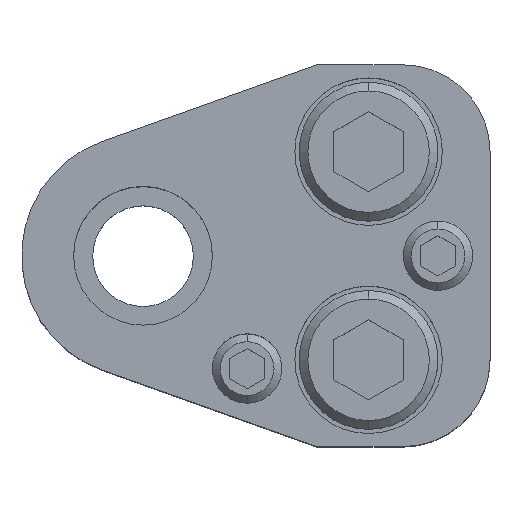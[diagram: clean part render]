
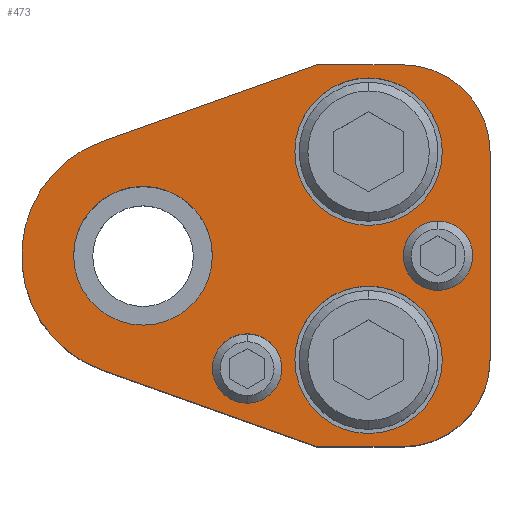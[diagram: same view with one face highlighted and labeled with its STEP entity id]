
A CAD part, top view. The second image highlights one B-rep face of the part: STEP entity #473.
In plain terms, the highlighted planar face has unit normal (0, 0, 1).
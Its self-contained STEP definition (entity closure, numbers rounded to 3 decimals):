
#223=FACE_BOUND('',#843,.T.);
#224=FACE_BOUND('',#844,.T.);
#225=FACE_BOUND('',#845,.T.);
#226=FACE_BOUND('',#846,.T.);
#227=FACE_BOUND('',#847,.T.);
#228=FACE_BOUND('',#848,.T.);
#273=CIRCLE('',#2646,14.);
#275=CIRCLE('',#2651,10.);
#277=CIRCLE('',#2655,10.);
#287=CIRCLE('',#2672,8.5);
#289=CIRCLE('',#2675,8.5);
#291=CIRCLE('',#2679,8.5);
#293=CIRCLE('',#2682,8.5);
#300=CIRCLE('',#2693,8.);
#302=CIRCLE('',#2696,8.);
#321=CIRCLE('',#2730,4.);
#322=CIRCLE('',#2731,4.);
#323=CIRCLE('',#2732,4.);
#324=CIRCLE('',#2733,4.);
#473=ADVANCED_FACE('',(#223,#224,#225,#226,#227,#228),#591,.T.);
#591=PLANE('',#2734);
#843=EDGE_LOOP('',(#1241,#1242,#1243,#1244,#1245,#1246,#1247,#1248));
#844=EDGE_LOOP('',(#1249,#1250));
#845=EDGE_LOOP('',(#1251,#1252));
#846=EDGE_LOOP('',(#1253,#1254));
#847=EDGE_LOOP('',(#1255,#1256));
#848=EDGE_LOOP('',(#1257,#1258));
#1241=ORIENTED_EDGE('',*,*,#1934,.T.);
#1242=ORIENTED_EDGE('',*,*,#1938,.T.);
#1243=ORIENTED_EDGE('',*,*,#1941,.T.);
#1244=ORIENTED_EDGE('',*,*,#1944,.T.);
#1245=ORIENTED_EDGE('',*,*,#1947,.T.);
#1246=ORIENTED_EDGE('',*,*,#1950,.T.);
#1247=ORIENTED_EDGE('',*,*,#1953,.T.);
#1248=ORIENTED_EDGE('',*,*,#1956,.T.);
#1249=ORIENTED_EDGE('',*,*,#2021,.F.);
#1250=ORIENTED_EDGE('',*,*,#2022,.F.);
#1251=ORIENTED_EDGE('',*,*,#2023,.F.);
#1252=ORIENTED_EDGE('',*,*,#2024,.F.);
#1253=ORIENTED_EDGE('',*,*,#1979,.F.);
#1254=ORIENTED_EDGE('',*,*,#1975,.F.);
#1255=ORIENTED_EDGE('',*,*,#1973,.F.);
#1256=ORIENTED_EDGE('',*,*,#1969,.F.);
#1257=ORIENTED_EDGE('',*,*,#1989,.T.);
#1258=ORIENTED_EDGE('',*,*,#1992,.T.);
#1688=VERTEX_POINT('',#3846);
#1689=VERTEX_POINT('',#3848);
#1692=VERTEX_POINT('',#3855);
#1694=VERTEX_POINT('',#3861);
#1696=VERTEX_POINT('',#3867);
#1698=VERTEX_POINT('',#3873);
#1700=VERTEX_POINT('',#3879);
#1702=VERTEX_POINT('',#3885);
#1711=VERTEX_POINT('',#3917);
#1712=VERTEX_POINT('',#3918);
#1715=VERTEX_POINT('',#3930);
#1716=VERTEX_POINT('',#3931);
#1725=VERTEX_POINT('',#3958);
#1726=VERTEX_POINT('',#3960);
#1745=VERTEX_POINT('',#4027);
#1746=VERTEX_POINT('',#4028);
#1747=VERTEX_POINT('',#4031);
#1748=VERTEX_POINT('',#4032);
#1934=EDGE_CURVE('',#1689,#1688,#273,.T.);
#1938=EDGE_CURVE('',#1688,#1692,#2266,.T.);
#1941=EDGE_CURVE('',#1692,#1694,#2269,.T.);
#1944=EDGE_CURVE('',#1694,#1696,#275,.T.);
#1947=EDGE_CURVE('',#1696,#1698,#2273,.T.);
#1950=EDGE_CURVE('',#1698,#1700,#277,.T.);
#1953=EDGE_CURVE('',#1700,#1702,#2277,.T.);
#1956=EDGE_CURVE('',#1702,#1689,#2280,.T.);
#1969=EDGE_CURVE('',#1711,#1712,#287,.T.);
#1973=EDGE_CURVE('',#1712,#1711,#289,.T.);
#1975=EDGE_CURVE('',#1715,#1716,#291,.T.);
#1979=EDGE_CURVE('',#1716,#1715,#293,.T.);
#1989=EDGE_CURVE('',#1726,#1725,#300,.T.);
#1992=EDGE_CURVE('',#1725,#1726,#302,.T.);
#2021=EDGE_CURVE('',#1745,#1746,#321,.T.);
#2022=EDGE_CURVE('',#1746,#1745,#322,.T.);
#2023=EDGE_CURVE('',#1747,#1748,#323,.T.);
#2024=EDGE_CURVE('',#1748,#1747,#324,.T.);
#2266=LINE('',#3856,#2458);
#2269=LINE('',#3862,#2461);
#2273=LINE('',#3874,#2465);
#2277=LINE('',#3886,#2469);
#2280=LINE('',#3890,#2472);
#2458=VECTOR('',#3056,1.);
#2461=VECTOR('',#3061,1.);
#2465=VECTOR('',#3073,1.);
#2469=VECTOR('',#3085,1.);
#2472=VECTOR('',#3090,1.);
#2646=AXIS2_PLACEMENT_3D('',#3847,#3048,#3049);
#2651=AXIS2_PLACEMENT_3D('',#3868,#3066,#3067);
#2655=AXIS2_PLACEMENT_3D('',#3880,#3078,#3079);
#2672=AXIS2_PLACEMENT_3D('',#3916,#3121,#3122);
#2675=AXIS2_PLACEMENT_3D('',#3925,#3129,#3130);
#2679=AXIS2_PLACEMENT_3D('',#3929,#3137,#3138);
#2682=AXIS2_PLACEMENT_3D('',#3938,#3145,#3146);
#2693=AXIS2_PLACEMENT_3D('',#3959,#3170,#3171);
#2696=AXIS2_PLACEMENT_3D('',#3964,#3177,#3178);
#2730=AXIS2_PLACEMENT_3D('',#4026,#3255,#3256);
#2731=AXIS2_PLACEMENT_3D('',#4029,#3257,#3258);
#2732=AXIS2_PLACEMENT_3D('',#4030,#3259,#3260);
#2733=AXIS2_PLACEMENT_3D('',#4033,#3261,#3262);
#2734=AXIS2_PLACEMENT_3D('',#4034,#3263,#3264);
#3048=DIRECTION('',(0.,0.,1.));
#3049=DIRECTION('',(0.,1.,0.));
#3056=DIRECTION('',(0.942,-0.336,0.));
#3061=DIRECTION('',(1.,0.,0.));
#3066=DIRECTION('',(0.,0.,1.));
#3067=DIRECTION('',(-0.707,0.707,0.));
#3073=DIRECTION('',(0.,1.,0.));
#3078=DIRECTION('',(0.,0.,1.));
#3079=DIRECTION('',(-0.707,-0.707,0.));
#3085=DIRECTION('',(-1.,0.,0.));
#3090=DIRECTION('',(-0.942,-0.336,0.));
#3121=DIRECTION('',(0.,0.,1.));
#3122=DIRECTION('',(-1.,0.,0.));
#3129=DIRECTION('',(0.,0.,1.));
#3130=DIRECTION('',(1.,0.,0.));
#3137=DIRECTION('',(0.,0.,1.));
#3138=DIRECTION('',(-1.,0.,0.));
#3145=DIRECTION('',(0.,0.,1.));
#3146=DIRECTION('',(1.,0.,0.));
#3170=DIRECTION('',(0.,0.,-1.));
#3171=DIRECTION('',(-1.,0.,0.));
#3177=DIRECTION('',(0.,0.,-1.));
#3178=DIRECTION('',(1.,0.,0.));
#3255=DIRECTION('',(0.,0.,1.));
#3256=DIRECTION('',(1.,0.,0.));
#3257=DIRECTION('',(0.,0.,1.));
#3258=DIRECTION('',(-1.,0.,0.));
#3259=DIRECTION('',(0.,0.,1.));
#3260=DIRECTION('',(1.,0.,0.));
#3261=DIRECTION('',(0.,0.,1.));
#3262=DIRECTION('',(-1.,0.,0.));
#3263=DIRECTION('',(0.,0.,1.));
#3264=DIRECTION('',(0.942,0.336,0.));
#3846=CARTESIAN_POINT('',(-4.704,-13.186,35.));
#3847=CARTESIAN_POINT('',(0.,0.,35.));
#3848=CARTESIAN_POINT('',(-4.704,13.186,35.));
#3855=CARTESIAN_POINT('',(20.,-22.,35.));
#3856=CARTESIAN_POINT('',(20.,-22.,35.));
#3861=CARTESIAN_POINT('',(30.,-22.,35.));
#3862=CARTESIAN_POINT('',(20.,-22.,35.));
#3867=CARTESIAN_POINT('',(40.,-12.,35.));
#3868=CARTESIAN_POINT('',(30.,-12.,35.));
#3873=CARTESIAN_POINT('',(40.,12.,35.));
#3874=CARTESIAN_POINT('',(40.,-12.,35.));
#3879=CARTESIAN_POINT('',(30.,22.,35.));
#3880=CARTESIAN_POINT('',(30.,12.,35.));
#3885=CARTESIAN_POINT('',(20.,22.,35.));
#3886=CARTESIAN_POINT('',(20.,22.,35.));
#3890=CARTESIAN_POINT('',(20.,22.,35.));
#3916=CARTESIAN_POINT('',(26.,12.,35.));
#3917=CARTESIAN_POINT('',(26.,3.5,35.));
#3918=CARTESIAN_POINT('',(26.,20.5,35.));
#3925=CARTESIAN_POINT('',(26.,12.,35.));
#3929=CARTESIAN_POINT('',(26.,-12.,35.));
#3930=CARTESIAN_POINT('',(26.,-20.5,35.));
#3931=CARTESIAN_POINT('',(26.,-3.5,35.));
#3938=CARTESIAN_POINT('',(26.,-12.,35.));
#3958=CARTESIAN_POINT('',(0.,-8.,35.));
#3959=CARTESIAN_POINT('',(0.,0.,35.));
#3960=CARTESIAN_POINT('',(0.,8.,35.));
#3964=CARTESIAN_POINT('',(0.,0.,35.));
#4026=CARTESIAN_POINT('',(34.,0.,35.));
#4027=CARTESIAN_POINT('',(34.,4.,35.));
#4028=CARTESIAN_POINT('',(34.,-4.,35.));
#4029=CARTESIAN_POINT('',(34.,0.,35.));
#4030=CARTESIAN_POINT('',(12.,-13.,35.));
#4031=CARTESIAN_POINT('',(12.,-9.,35.));
#4032=CARTESIAN_POINT('',(12.,-17.,35.));
#4033=CARTESIAN_POINT('',(12.,-13.,35.));
#4034=CARTESIAN_POINT('',(-4.704,13.186,35.));
